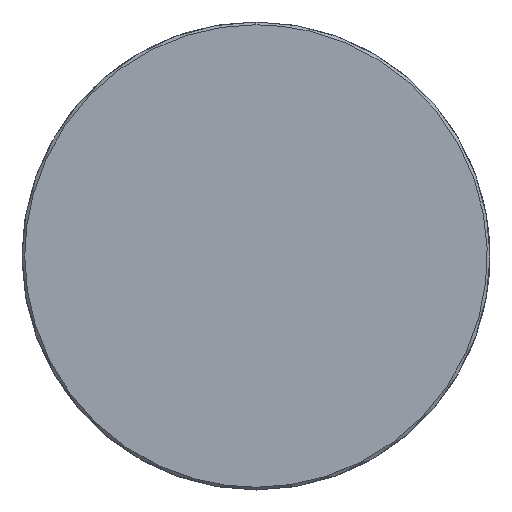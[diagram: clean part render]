
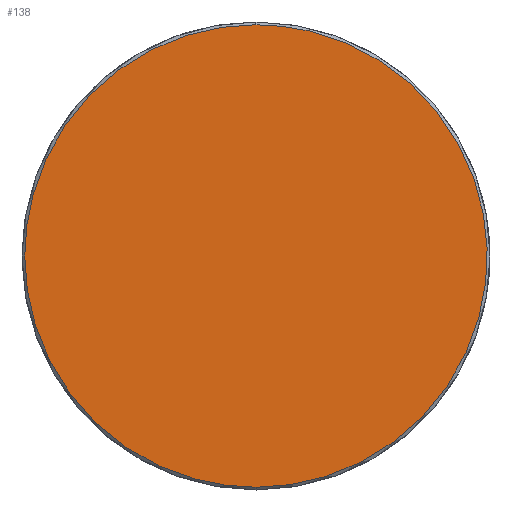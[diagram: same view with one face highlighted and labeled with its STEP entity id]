
A CAD part, left-side view. The second image highlights one B-rep face of the part: STEP entity #138.
In plain terms, the highlighted free-form (B-spline) face has degree [1, 1] with [2, 2] control points.
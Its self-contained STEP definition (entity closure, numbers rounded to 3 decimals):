
#138=ADVANCED_FACE('',(#271),#272,.T.);
#271=FACE_OUTER_BOUND('',#636,.T.);
#272=B_SPLINE_SURFACE_WITH_KNOTS('',1,1,((#637,#638),(#639,#640)),.UNSPECIFIED.,.F.,.F.,.F.,(2,2),(2,2),(0.0,50.14),(0.0,50.14),.UNSPECIFIED.);
#636=EDGE_LOOP('',(#965,#966,#967));
#637=CARTESIAN_POINT('',(-56.,-25.07,-25.07));
#638=CARTESIAN_POINT('',(-56.,25.07,-25.07));
#639=CARTESIAN_POINT('',(-56.,-25.07,25.07));
#640=CARTESIAN_POINT('',(-56.,25.07,25.07));
#965=ORIENTED_EDGE('',*,*,#1068,.T.);
#966=ORIENTED_EDGE('',*,*,#1010,.T.);
#967=ORIENTED_EDGE('',*,*,#1069,.T.);
#1010=EDGE_CURVE('',#1191,#1189,#1192,.T.);
#1068=EDGE_CURVE('',#1281,#1191,#1282,.T.);
#1069=EDGE_CURVE('',#1189,#1281,#1283,.T.);
#1189=VERTEX_POINT('',#1556);
#1191=VERTEX_POINT('',#1559);
#1192=(B_SPLINE_CURVE(2,(#1561,#1562,#1563,#1564,#1565),.UNSPECIFIED.,.F.,.F.)B_SPLINE_CURVE_WITH_KNOTS((3,2,3),(-1.571,0.,1.571),.UNSPECIFIED.)RATIONAL_B_SPLINE_CURVE((1.,0.707,1.0,0.707,1.))BOUNDED_CURVE()REPRESENTATION_ITEM('')GEOMETRIC_REPRESENTATION_ITEM()CURVE());
#1281=VERTEX_POINT('',#1790);
#1282=(B_SPLINE_CURVE(2,(#1792,#1793,#1794),.UNSPECIFIED.,.F.,.F.)B_SPLINE_CURVE_WITH_KNOTS((3,3),(-3.142,-1.571),.UNSPECIFIED.)RATIONAL_B_SPLINE_CURVE((1.0,0.707,1.))BOUNDED_CURVE()REPRESENTATION_ITEM('')GEOMETRIC_REPRESENTATION_ITEM()CURVE());
#1283=(B_SPLINE_CURVE(2,(#1802,#1803,#1804),.UNSPECIFIED.,.F.,.F.)B_SPLINE_CURVE_WITH_KNOTS((3,3),(1.571,3.142),.UNSPECIFIED.)RATIONAL_B_SPLINE_CURVE((1.,0.707,1.0))BOUNDED_CURVE()REPRESENTATION_ITEM('')GEOMETRIC_REPRESENTATION_ITEM()CURVE());
#1556=CARTESIAN_POINT('',(-56.,0.,25.07));
#1559=CARTESIAN_POINT('',(-56.,0.,-25.07));
#1561=CARTESIAN_POINT('',(-56.,0.,-25.07));
#1562=CARTESIAN_POINT('',(-56.,-25.07,-25.07));
#1563=CARTESIAN_POINT('',(-56.,-25.07,0.));
#1564=CARTESIAN_POINT('',(-56.,-25.07,25.07));
#1565=CARTESIAN_POINT('',(-56.,0.,25.07));
#1790=CARTESIAN_POINT('',(-56.,25.07,0.));
#1792=CARTESIAN_POINT('',(-56.,25.07,0.));
#1793=CARTESIAN_POINT('',(-56.,25.07,-25.07));
#1794=CARTESIAN_POINT('',(-56.,0.,-25.07));
#1802=CARTESIAN_POINT('',(-56.,0.,25.07));
#1803=CARTESIAN_POINT('',(-56.,25.07,25.07));
#1804=CARTESIAN_POINT('',(-56.,25.07,0.));
